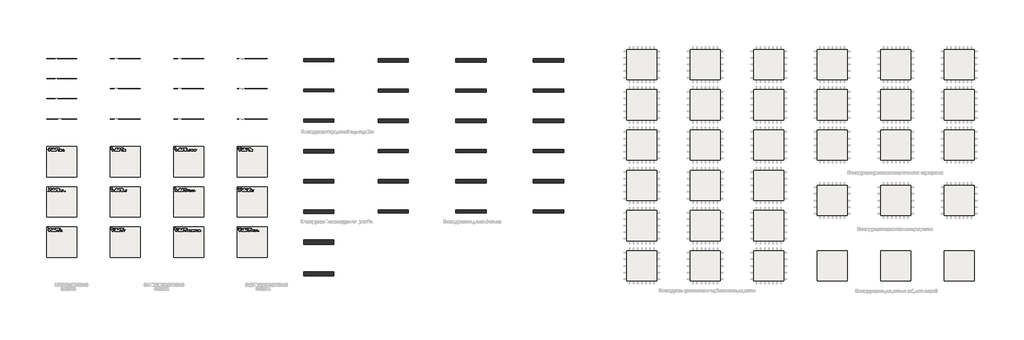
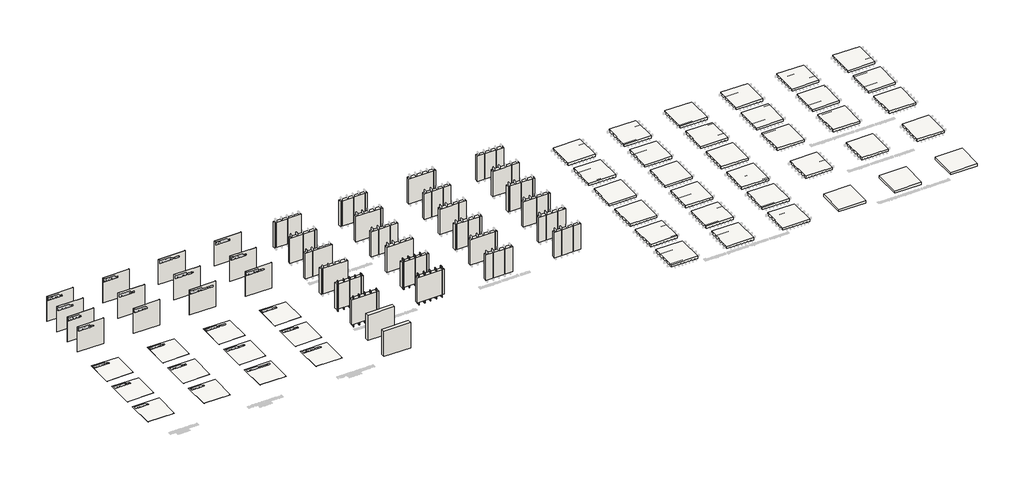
# One storey, part 1 of 42: 45 slabs, 42 beams, 39 walls.
"""IFC4 building model written with IfcOpenShell, lengths in millimetres."""

from ifc_helpers import new_model, si_unit, frame, origin, origin_with_axes, place, context, project, spatial, polyline, outline, extrude, transform, mapped, element, save
from components import beam_54a566a4, beam_29c01288, beam_5dea3e8d

model = new_model("IFC4")

# Units and contexts
model_context = context("Model", 3, world=origin())
ifc_project = project(units=[si_unit("LENGTHUNIT", "METRE", prefix="MILLI")], contexts=[model_context])

# Site, building, storey
site = spatial("IfcSite", under=ifc_project)
building = spatial("IfcBuilding", under=site)
storey = spatial("IfcBuildingStorey", under=building, Name="Этаж 01", Elevation=0.0)

# Beams
placement = place(None, origin())
beam_shape = beam_54a566a4(model_context)
element("IfcBeam", 1, ObjectType="Деревянный брус : 50х50", at=placement, inside=storey, context=model_context, shape_type="MappedRepresentation", body=[
    mapped(beam_shape, transform((4863.2067679, -37173.8929597, 1500.0), x_axis=(0.0, 0.0, -1.0), y_axis=(-1.0, 0.0, 0.0), z_axis=(0.0, 1.0, 0.0))),
])
element("IfcBeam", 2, ObjectType="Деревянный брус : 50х50", at=placement, inside=storey, context=model_context, shape_type="MappedRepresentation", body=[
    mapped(beam_shape, transform((4213.2067679, -37173.8929597, 1500.0), x_axis=(0.0, 0.0, -1.0), y_axis=(-1.0, 0.0, 0.0), z_axis=(0.0, 1.0, 0.0))),
])
element("IfcBeam", 3, ObjectType="Деревянный брус : 50х50", at=placement, inside=storey, context=model_context, shape_type="MappedRepresentation", body=[
    mapped(beam_shape, transform((3563.2067679, -37173.8929597, 1500.0), x_axis=(0.0, 0.0, -1.0), y_axis=(-1.0, 0.0, 0.0), z_axis=(0.0, 1.0, 0.0))),
])
element("IfcBeam", 4, ObjectType="Деревянный брус : 50х50", at=placement, inside=storey, context=model_context, shape_type="MappedRepresentation", body=[
    mapped(beam_shape, transform((2913.2067679, -37173.8929597, 1500.0), x_axis=(0.0, 0.0, -1.0), y_axis=(-1.0, 0.0, 0.0), z_axis=(0.0, 1.0, 0.0))),
])
element("IfcBeam", 5, ObjectType="Деревянный брус : 50х50", at=placement, inside=storey, context=model_context, shape_type="MappedRepresentation", body=[
    mapped(beam_shape, transform((2263.2067679, -37173.8929597, 1500.0), x_axis=(0.0, 0.0, -1.0), y_axis=(-1.0, 0.0, 0.0), z_axis=(0.0, 1.0, 0.0))),
])
element("IfcBeam", 6, ObjectType="Деревянный брус : 50х50", at=placement, inside=storey, context=model_context, shape_type="MappedRepresentation", body=[
    mapped(beam_shape, transform((12263.2067679, -37135.8929597, 1500.0), x_axis=(0.0, 0.0, -1.0), y_axis=(-1.0, 0.0, 0.0), z_axis=(0.0, 1.0, 0.0))),
])
element("IfcBeam", 7, ObjectType="Деревянный брус : 50х50", at=placement, inside=storey, context=model_context, shape_type="MappedRepresentation", body=[
    mapped(beam_shape, transform((11613.2067679, -37135.8929597, 1500.0), x_axis=(0.0, 0.0, -1.0), y_axis=(-1.0, 0.0, 0.0), z_axis=(0.0, 1.0, 0.0))),
])
element("IfcBeam", 8, ObjectType="Деревянный брус : 50х50", at=placement, inside=storey, context=model_context, shape_type="MappedRepresentation", body=[
    mapped(beam_shape, transform((10963.2067679, -37135.8929597, 1500.0), x_axis=(0.0, 0.0, -1.0), y_axis=(-1.0, 0.0, 0.0), z_axis=(0.0, 1.0, 0.0))),
])
element("IfcBeam", 9, ObjectType="Деревянный брус : 50х50", at=placement, inside=storey, context=model_context, shape_type="MappedRepresentation", body=[
    mapped(beam_shape, transform((10313.2067679, -37135.8929597, 1500.0), x_axis=(0.0, 0.0, -1.0), y_axis=(-1.0, 0.0, 0.0), z_axis=(0.0, 1.0, 0.0))),
])
element("IfcBeam", 10, ObjectType="Деревянный брус : 50х50", at=placement, inside=storey, context=model_context, shape_type="MappedRepresentation", body=[
    mapped(beam_shape, transform((9663.2067679, -37135.8929597, 1500.0), x_axis=(0.0, 0.0, -1.0), y_axis=(-1.0, 0.0, 0.0), z_axis=(0.0, 1.0, 0.0))),
])
element("IfcBeam", 11, ObjectType="Деревянный брус : 50х50", at=placement, inside=storey, context=model_context, shape_type="MappedRepresentation", body=[
    mapped(beam_shape, transform((12263.2067679, -36883.8929597, 1500.0), x_axis=(0.0, 0.0, -1.0), y_axis=(1.0, 0.0, 0.0), z_axis=(0.0, -1.0, 0.0))),
])
element("IfcBeam", 12, ObjectType="Деревянный брус : 50х50", at=placement, inside=storey, context=model_context, shape_type="MappedRepresentation", body=[
    mapped(beam_shape, transform((11613.2067679, -36883.8929597, 1500.0), x_axis=(0.0, 0.0, -1.0), y_axis=(1.0, 0.0, 0.0), z_axis=(0.0, -1.0, 0.0))),
])
element("IfcBeam", 13, ObjectType="Деревянный брус : 50х50", at=placement, inside=storey, context=model_context, shape_type="MappedRepresentation", body=[
    mapped(beam_shape, transform((10963.2067679, -36883.8929597, 1500.0), x_axis=(0.0, 0.0, -1.0), y_axis=(1.0, 0.0, 0.0), z_axis=(0.0, -1.0, 0.0))),
])
element("IfcBeam", 14, ObjectType="Деревянный брус : 50х50", at=placement, inside=storey, context=model_context, shape_type="MappedRepresentation", body=[
    mapped(beam_shape, transform((10313.2067679, -36883.8929597, 1500.0), x_axis=(0.0, 0.0, -1.0), y_axis=(1.0, 0.0, 0.0), z_axis=(0.0, -1.0, 0.0))),
])
element("IfcBeam", 15, ObjectType="Деревянный брус : 50х50", at=placement, inside=storey, context=model_context, shape_type="MappedRepresentation", body=[
    mapped(beam_shape, transform((9663.2067679, -36883.8929597, 1500.0), x_axis=(0.0, 0.0, -1.0), y_axis=(1.0, 0.0, 0.0), z_axis=(0.0, -1.0, 0.0))),
])
element("IfcBeam", 16, ObjectType="Деревянный брус : 50х50", at=placement, inside=storey, context=model_context, shape_type="MappedRepresentation", body=[
    mapped(beam_shape, transform((4863.2067679, -34173.8929597, 1500.0), x_axis=(0.0, 0.0, -1.0), y_axis=(-1.0, 0.0, 0.0), z_axis=(0.0, 1.0, 0.0))),
])
element("IfcBeam", 17, ObjectType="Деревянный брус : 50х50", at=placement, inside=storey, context=model_context, shape_type="MappedRepresentation", body=[
    mapped(beam_shape, transform((4213.2067679, -34173.8929597, 1500.0), x_axis=(0.0, 0.0, -1.0), y_axis=(-1.0, 0.0, 0.0), z_axis=(0.0, 1.0, 0.0))),
])
element("IfcBeam", 18, ObjectType="Деревянный брус : 50х50", at=placement, inside=storey, context=model_context, shape_type="MappedRepresentation", body=[
    mapped(beam_shape, transform((3563.2067679, -34173.8929597, 1500.0), x_axis=(0.0, 0.0, -1.0), y_axis=(-1.0, 0.0, 0.0), z_axis=(0.0, 1.0, 0.0))),
])
element("IfcBeam", 19, ObjectType="Деревянный брус : 50х50", at=placement, inside=storey, context=model_context, shape_type="MappedRepresentation", body=[
    mapped(beam_shape, transform((2913.2067679, -34173.8929597, 1500.0), x_axis=(0.0, 0.0, -1.0), y_axis=(-1.0, 0.0, 0.0), z_axis=(0.0, 1.0, 0.0))),
])
element("IfcBeam", 20, ObjectType="Деревянный брус : 50х50", at=placement, inside=storey, context=model_context, shape_type="MappedRepresentation", body=[
    mapped(beam_shape, transform((2263.2067679, -34173.8929597, 1500.0), x_axis=(0.0, 0.0, -1.0), y_axis=(-1.0, 0.0, 0.0), z_axis=(0.0, 1.0, 0.0))),
])
element("IfcBeam", 21, ObjectType="Деревянный брус : 50х50", at=placement, inside=storey, context=model_context, shape_type="MappedRepresentation", body=[
    mapped(beam_shape, transform((10963.2067679, -34135.8929597, 1500.0), x_axis=(0.0, 0.0, -1.0), y_axis=(-1.0, 0.0, 0.0), z_axis=(0.0, 1.0, 0.0))),
])
element("IfcBeam", 22, ObjectType="Деревянный брус : 50х50", at=placement, inside=storey, context=model_context, shape_type="MappedRepresentation", body=[
    mapped(beam_shape, transform((10313.2067679, -34135.8929597, 1500.0), x_axis=(0.0, 0.0, -1.0), y_axis=(-1.0, 0.0, 0.0), z_axis=(0.0, 1.0, 0.0))),
])
element("IfcBeam", 23, ObjectType="Деревянный брус : 50х50", at=placement, inside=storey, context=model_context, shape_type="MappedRepresentation", body=[
    mapped(beam_shape, transform((9663.2067679, -34135.8929597, 1500.0), x_axis=(0.0, 0.0, -1.0), y_axis=(-1.0, 0.0, 0.0), z_axis=(0.0, 1.0, 0.0))),
])
beam_2_shape = beam_29c01288(model_context)
element("IfcBeam", 24, ObjectType="Деревянный брус : 50х100", at=placement, inside=storey, context=model_context, shape_type="MappedRepresentation", body=[
    mapped(beam_2_shape, transform((4863.2067679, -37096.8929597, 1500.0), x_axis=(0.0, 0.0, -1.0), y_axis=(1.0, 0.0, 0.0), z_axis=(0.0, -1.0, 0.0))),
])
element("IfcBeam", 25, ObjectType="Деревянный брус : 50х100", at=placement, inside=storey, context=model_context, shape_type="MappedRepresentation", body=[
    mapped(beam_2_shape, transform((4213.2067679, -37096.8929597, 1500.0), x_axis=(0.0, 0.0, -1.0), y_axis=(1.0, 0.0, 0.0), z_axis=(0.0, -1.0, 0.0))),
])
element("IfcBeam", 26, ObjectType="Деревянный брус : 50х100", at=placement, inside=storey, context=model_context, shape_type="MappedRepresentation", body=[
    mapped(beam_2_shape, transform((3563.2067679, -37096.8929597, 1500.0), x_axis=(0.0, 0.0, -1.0), y_axis=(1.0, 0.0, 0.0), z_axis=(0.0, -1.0, 0.0))),
])
element("IfcBeam", 27, ObjectType="Деревянный брус : 50х100", at=placement, inside=storey, context=model_context, shape_type="MappedRepresentation", body=[
    mapped(beam_2_shape, transform((2913.2067679, -37096.8929597, 1500.0), x_axis=(0.0, 0.0, -1.0), y_axis=(1.0, 0.0, 0.0), z_axis=(0.0, -1.0, 0.0))),
])
element("IfcBeam", 28, ObjectType="Деревянный брус : 50х100", at=placement, inside=storey, context=model_context, shape_type="MappedRepresentation", body=[
    mapped(beam_2_shape, transform((2263.2067679, -37096.8929597, 1500.0), x_axis=(0.0, 0.0, -1.0), y_axis=(1.0, 0.0, 0.0), z_axis=(0.0, -1.0, 0.0))),
])
element("IfcBeam", 29, ObjectType="Деревянный брус : 50х100", at=placement, inside=storey, context=model_context, shape_type="MappedRepresentation", body=[
    mapped(beam_2_shape, transform((4863.2067679, -34096.8929597, 1500.0), x_axis=(0.0, 0.0, -1.0), y_axis=(1.0, 0.0, 0.0), z_axis=(0.0, -1.0, 0.0))),
])
element("IfcBeam", 30, ObjectType="Деревянный брус : 50х100", at=placement, inside=storey, context=model_context, shape_type="MappedRepresentation", body=[
    mapped(beam_2_shape, transform((4213.2067679, -34096.8929597, 1500.0), x_axis=(0.0, 0.0, -1.0), y_axis=(1.0, 0.0, 0.0), z_axis=(0.0, -1.0, 0.0))),
])
element("IfcBeam", 31, ObjectType="Деревянный брус : 50х100", at=placement, inside=storey, context=model_context, shape_type="MappedRepresentation", body=[
    mapped(beam_2_shape, transform((3563.2067679, -34096.8929597, 1500.0), x_axis=(0.0, 0.0, -1.0), y_axis=(1.0, 0.0, 0.0), z_axis=(0.0, -1.0, 0.0))),
])
element("IfcBeam", 32, ObjectType="Деревянный брус : 50х100", at=placement, inside=storey, context=model_context, shape_type="MappedRepresentation", body=[
    mapped(beam_2_shape, transform((2913.2067679, -34096.8929597, 1500.0), x_axis=(0.0, 0.0, -1.0), y_axis=(1.0, 0.0, 0.0), z_axis=(0.0, -1.0, 0.0))),
])
element("IfcBeam", 33, ObjectType="Деревянный брус : 50х100", at=placement, inside=storey, context=model_context, shape_type="MappedRepresentation", body=[
    mapped(beam_2_shape, transform((2263.2067679, -34096.8929597, 1500.0), x_axis=(0.0, 0.0, -1.0), y_axis=(1.0, 0.0, 0.0), z_axis=(0.0, -1.0, 0.0))),
])
beam_3_shape = beam_5dea3e8d(model_context)
element("IfcBeam", 34, ObjectType="Деревянный брус : 50х200", at=placement, inside=storey, context=model_context, shape_type="MappedRepresentation", body=[
    mapped(beam_3_shape, transform((12263.2333353, -37009.8759551, 1500.0), x_axis=(0.0, 0.0, -1.0), y_axis=(1.0, 0.0, 0.0), z_axis=(0.0, -1.0, 0.0))),
])
element("IfcBeam", 35, ObjectType="Деревянный брус : 50х200", at=placement, inside=storey, context=model_context, shape_type="MappedRepresentation", body=[
    mapped(beam_3_shape, transform((11613.2333353, -37009.8759551, 1500.0), x_axis=(0.0, 0.0, -1.0), y_axis=(1.0, 0.0, 0.0), z_axis=(0.0, -1.0, 0.0))),
])
element("IfcBeam", 36, ObjectType="Деревянный брус : 50х200", at=placement, inside=storey, context=model_context, shape_type="MappedRepresentation", body=[
    mapped(beam_3_shape, transform((10963.2333353, -37009.8759551, 1500.0), x_axis=(0.0, 0.0, -1.0), y_axis=(1.0, 0.0, 0.0), z_axis=(0.0, -1.0, 0.0))),
])
element("IfcBeam", 37, ObjectType="Деревянный брус : 50х200", at=placement, inside=storey, context=model_context, shape_type="MappedRepresentation", body=[
    mapped(beam_3_shape, transform((10313.2333353, -37009.8759551, 1500.0), x_axis=(0.0, 0.0, -1.0), y_axis=(1.0, 0.0, 0.0), z_axis=(0.0, -1.0, 0.0))),
])
element("IfcBeam", 38, ObjectType="Деревянный брус : 50х200", at=placement, inside=storey, context=model_context, shape_type="MappedRepresentation", body=[
    mapped(beam_3_shape, transform((9663.2333353, -37009.8759551, 1500.0), x_axis=(0.0, 0.0, -1.0), y_axis=(1.0, 0.0, 0.0), z_axis=(0.0, -1.0, 0.0))),
])
element("IfcBeam", 39, ObjectType="Деревянный брус : 50х200", at=placement, inside=storey, context=model_context, shape_type="MappedRepresentation", body=[
    mapped(beam_3_shape, transform((11613.2333353, -34009.8759551, 1500.0), x_axis=(0.0, 0.0, -1.0), y_axis=(1.0, 0.0, 0.0), z_axis=(0.0, -1.0, 0.0))),
])
element("IfcBeam", 40, ObjectType="Деревянный брус : 50х200", at=placement, inside=storey, context=model_context, shape_type="MappedRepresentation", body=[
    mapped(beam_3_shape, transform((10963.2333353, -34009.8759551, 1500.0), x_axis=(0.0, 0.0, -1.0), y_axis=(1.0, 0.0, 0.0), z_axis=(0.0, -1.0, 0.0))),
])
element("IfcBeam", 41, ObjectType="Деревянный брус : 50х200", at=placement, inside=storey, context=model_context, shape_type="MappedRepresentation", body=[
    mapped(beam_3_shape, transform((10313.2333353, -34009.8759551, 1500.0), x_axis=(0.0, 0.0, -1.0), y_axis=(1.0, 0.0, 0.0), z_axis=(0.0, -1.0, 0.0))),
])
element("IfcBeam", 42, ObjectType="Деревянный брус : 50х200", at=placement, inside=storey, context=model_context, shape_type="MappedRepresentation", body=[
    mapped(beam_3_shape, transform((9663.2333353, -34009.8759551, 1500.0), x_axis=(0.0, 0.0, -1.0), y_axis=(1.0, 0.0, 0.0), z_axis=(0.0, -1.0, 0.0))),
])

# Slabs
element("IfcSlab", 43, ObjectType="OND_Ветрозащита_ONDUTISS BASIC A_ONDULINE", at=placement, inside=storey, context=model_context, shape_type="SweptSolid", body=[
    extrude(outline(polyline([(-20436.7932321, -30575.312691), (-20436.7932321, -33575.312691), (-23436.7932321, -33575.312691), (-23436.7932321, -30575.312691), (-20436.7932321, -30575.312691)])), frame((0.0, 0.0, -1.0), z_axis=(0.0, 0.0, 1.0), x_axis=(1.0, 0.0, 0.0)), (0.0, 0.0, 1.0), 1.0),
])
element("IfcSlab", 44, ObjectType="OND_Ветрозащита_ONDUTISS SMART A_ONDULINE", at=placement, inside=storey, context=model_context, shape_type="SweptSolid", body=[
    extrude(outline(polyline([(-20436.7932321, -34575.312691), (-20436.7932321, -37575.312691), (-23436.7932321, -37575.312691), (-23436.7932321, -34575.312691), (-20436.7932321, -34575.312691)])), frame((0.0, 0.0, -1.0), z_axis=(0.0, 0.0, 1.0), x_axis=(1.0, 0.0, 0.0)), (0.0, 0.0, 1.0), 1.0),
])
element("IfcSlab", 45, ObjectType="OND_Ветрозащита_ONDUTISS PRO A_ONDULINE", at=placement, inside=storey, context=model_context, shape_type="SweptSolid", body=[
    extrude(outline(polyline([(-20436.7932321, -38575.312691), (-20436.7932321, -41575.312691), (-23436.7932321, -41575.312691), (-23436.7932321, -38575.312691), (-20436.7932321, -38575.312691)])), frame((0.0, 0.0, -1.0), z_axis=(0.0, 0.0, 1.0), x_axis=(1.0, 0.0, 0.0)), (0.0, 0.0, 1.0), 1.0),
])
element("IfcSlab", 46, ObjectType="OND_Пароизоляция_ONDUTISS BASIC B_ONDULINE", at=placement, inside=storey, context=model_context, shape_type="SweptSolid", body=[
    extrude(outline(polyline([(-14136.7932321, -30575.312691), (-14136.7932321, -33575.312691), (-17136.7932321, -33575.312691), (-17136.7932321, -30575.312691), (-14136.7932321, -30575.312691)])), frame((0.0, 0.0, -1.0), z_axis=(0.0, 0.0, 1.0), x_axis=(1.0, 0.0, 0.0)), (0.0, 0.0, 1.0), 1.0),
])
element("IfcSlab", 47, ObjectType="OND_Пароизоляция_ONDUTISS SMART B_ONDULINE", at=placement, inside=storey, context=model_context, shape_type="SweptSolid", body=[
    extrude(outline(polyline([(-14136.7932321, -34575.312691), (-14136.7932321, -37575.312691), (-17136.7932321, -37575.312691), (-17136.7932321, -34575.312691), (-14136.7932321, -34575.312691)])), frame((0.0, 0.0, -1.0), z_axis=(0.0, 0.0, 1.0), x_axis=(1.0, 0.0, 0.0)), (0.0, 0.0, 1.0), 1.0),
])
element("IfcSlab", 48, ObjectType="OND_Пароизоляция_ONDUTISS PRO B_ONDULINE", at=placement, inside=storey, context=model_context, shape_type="SweptSolid", body=[
    extrude(outline(polyline([(-14136.7932321, -38575.312691), (-14136.7932321, -41575.312691), (-17136.7932321, -41575.312691), (-17136.7932321, -38575.312691), (-14136.7932321, -38575.312691)])), frame((0.0, 0.0, -1.0), z_axis=(0.0, 0.0, 1.0), x_axis=(1.0, 0.0, 0.0)), (0.0, 0.0, 1.0), 1.0),
])
element("IfcSlab", 49, ObjectType="OND_Пароизоляция_ONDUTISS SMART TERMO_ONDULINE", at=placement, inside=storey, context=model_context, shape_type="SweptSolid", body=[
    extrude(outline(polyline([(-7836.7932321, -30575.312691), (-7836.7932321, -33575.312691), (-10836.7932321, -33575.312691), (-10836.7932321, -30575.312691), (-7836.7932321, -30575.312691)])), frame((0.0, 0.0, -1.0), z_axis=(0.0, 0.0, 1.0), x_axis=(1.0, 0.0, 0.0)), (0.0, 0.0, 1.0), 1.0),
])
element("IfcSlab", 50, ObjectType="OND_Пароизоляция_ONDUTISS PRO TERMO+_ONDULINE", at=placement, inside=storey, context=model_context, shape_type="SweptSolid", body=[
    extrude(outline(polyline([(-7836.7932321, -34575.312691), (-7836.7932321, -37575.312691), (-10836.7932321, -37575.312691), (-10836.7932321, -34575.312691), (-7836.7932321, -34575.312691)])), frame((0.0, 0.0, -1.0), z_axis=(0.0, 0.0, 1.0), x_axis=(1.0, 0.0, 0.0)), (0.0, 0.0, 1.0), 1.0),
])
element("IfcSlab", 51, ObjectType="OND_Пароизоляция_ONDUTISS PRO FRAME HOUSE_ONDULINE", at=placement, inside=storey, context=model_context, shape_type="SweptSolid", body=[
    extrude(outline(polyline([(-7836.7932321, -38575.312691), (-7836.7932321, -41575.312691), (-10836.7932321, -41575.312691), (-10836.7932321, -38575.312691), (-7836.7932321, -38575.312691)])), frame((0.0, 0.0, -1.0), z_axis=(0.0, 0.0, 1.0), x_axis=(1.0, 0.0, 0.0)), (0.0, 0.0, 1.0), 1.0),
])
element("IfcSlab", 52, ObjectType="OND_Гидроизоляция_ONDUTISS BASIC D_ONDULINE", at=placement, inside=storey, context=model_context, shape_type="SweptSolid", body=[
    extrude(outline(polyline([(-1536.7932321, -30575.312691), (-1536.7932321, -33575.312691), (-4536.7932321, -33575.312691), (-4536.7932321, -30575.312691), (-1536.7932321, -30575.312691)])), frame((0.0, 0.0, -1.0), z_axis=(0.0, 0.0, 1.0), x_axis=(1.0, 0.0, 0.0)), (0.0, 0.0, 1.0), 1.0),
])
element("IfcSlab", 53, ObjectType="OND_Гидроизоляция_ONDUTISS SMART D_ONDULINE", at=placement, inside=storey, context=model_context, shape_type="SweptSolid", body=[
    extrude(outline(polyline([(-1536.7932321, -34575.312691), (-1536.7932321, -37575.312691), (-4536.7932321, -37575.312691), (-4536.7932321, -34575.312691), (-1536.7932321, -34575.312691)])), frame((0.0, 0.0, -1.0), z_axis=(0.0, 0.0, 1.0), x_axis=(1.0, 0.0, 0.0)), (0.0, 0.0, 1.0), 1.0),
])
element("IfcSlab", 54, ObjectType="OND_Гидроизоляция_ONDUTISS PRO TERMO+_ONDULINE", at=placement, inside=storey, context=model_context, shape_type="SweptSolid", body=[
    extrude(outline(polyline([(-1536.7932321, -38575.312691), (-1536.7932321, -41575.312691), (-4536.7932321, -41575.312691), (-4536.7932321, -38575.312691), (-1536.7932321, -38575.312691)])), frame((0.0, 0.0, -1.0), z_axis=(0.0, 0.0, 1.0), x_axis=(1.0, 0.0, 0.0)), (0.0, 0.0, 1.0), 1.0),
])
element("IfcSlab", 55, ObjectType="OND_Перекрытие_Вагонка12/Подшивка25/ONDUTISS BASIC B/Мин.вата150/ONDUTISS BASIC А/Обрешетка50/Доска25_ONDULINE", at=placement, inside=storey, context=model_context, shape_type="SweptSolid", body=[
    extrude(outline(polyline([(37113.2067679, -20926.7844763), (37113.2067679, -23926.7844763), (34113.2067679, -23926.7844763), (34113.2067679, -20926.7844763), (37113.2067679, -20926.7844763)])), frame((0.0, 0.0, -264.0), z_axis=(0.0, 0.0, 1.0), x_axis=(1.0, 0.0, 0.0)), (0.0, 0.0, 1.0), 264.0),
])
element("IfcSlab", 56, ObjectType="OND_Перекрытие_Вагонка12/Подшивка25/ONDUTISS SMART B/Мин.вата150/ONDUTISS BASIC А/Обрешетка50/Доска25_ONDULINE", at=placement, inside=storey, context=model_context, shape_type="SweptSolid", body=[
    extrude(outline(polyline([(37113.2067679, -24926.7844763), (37113.2067679, -27926.7844763), (34113.2067679, -27926.7844763), (34113.2067679, -24926.7844763), (37113.2067679, -24926.7844763)])), frame((0.0, 0.0, -264.0), z_axis=(0.0, 0.0, 1.0), x_axis=(1.0, 0.0, 0.0)), (0.0, 0.0, 1.0), 264.0),
])
element("IfcSlab", 57, ObjectType="OND_Перекрытие_Вагонка12/Подшивка25/ONDUTISS PRO B/Мин.вата150/ONDUTISS BASIC А/Обрешетка50/Доска25_ONDULINE", at=placement, inside=storey, context=model_context, shape_type="SweptSolid", body=[
    extrude(outline(polyline([(37113.2067679, -28926.7844763), (37113.2067679, -31926.7844763), (34113.2067679, -31926.7844763), (34113.2067679, -28926.7844763), (37113.2067679, -28926.7844763)])), frame((0.0, 0.0, -264.0), z_axis=(0.0, 0.0, 1.0), x_axis=(1.0, 0.0, 0.0)), (0.0, 0.0, 1.0), 264.0),
])
element("IfcSlab", 58, ObjectType="OND_Перекрытие_Вагонка12/Подшивка25/ONDUTISS SMART TERMO/Мин.вата150/ONDUTISS BASIC А/Обрешетка50/Доска25_ONDULINE", at=placement, inside=storey, context=model_context, shape_type="SweptSolid", body=[
    extrude(outline(polyline([(37113.2067679, -32926.7844763), (37113.2067679, -35926.7844763), (34113.2067679, -35926.7844763), (34113.2067679, -32926.7844763), (37113.2067679, -32926.7844763)])), frame((0.0, 0.0, -264.0), z_axis=(0.0, 0.0, 1.0), x_axis=(1.0, 0.0, 0.0)), (0.0, 0.0, 1.0), 264.0),
])
element("IfcSlab", 59, ObjectType="OND_Перекрытие_Вагонка12/Подшивка25/ONDUTISS PRO TERMO +/Мин.вата150/ONDUTISS BASIC А/Обрешетка50/Доска25_ONDULINE", at=placement, inside=storey, context=model_context, shape_type="SweptSolid", body=[
    extrude(outline(polyline([(37113.2067679, -36926.7844763), (37113.2067679, -39926.7844763), (34113.2067679, -39926.7844763), (34113.2067679, -36926.7844763), (37113.2067679, -36926.7844763)])), frame((0.0, 0.0, -264.0), z_axis=(0.0, 0.0, 1.0), x_axis=(1.0, 0.0, 0.0)), (0.0, 0.0, 1.0), 264.0),
])
element("IfcSlab", 60, ObjectType="OND_Перекрытие_Вагонка12/Подшивка25/ONDUTISS PRO FRAME HOUSE/Мин.вата150/ONDUTISS BASIC А/Обрешетка50/Доска25_ONDULINE", at=placement, inside=storey, context=model_context, shape_type="SweptSolid", body=[
    extrude(outline(polyline([(37113.2067679, -40926.7844763), (37113.2067679, -43926.7844763), (34113.2067679, -43926.7844763), (34113.2067679, -40926.7844763), (37113.2067679, -40926.7844763)])), frame((0.0, 0.0, -264.0), z_axis=(0.0, 0.0, 1.0), x_axis=(1.0, 0.0, 0.0)), (0.0, 0.0, 1.0), 264.0),
])
element("IfcSlab", 61, ObjectType="OND_Перекрытие_Вагонка12/Подшивка25/ONDUTISS BASIC B/Мин.вата150/ONDUTISS SMART A/Обрешетка50/Доска25_ONDULINE", at=placement, inside=storey, context=model_context, shape_type="SweptSolid", body=[
    extrude(outline(polyline([(43413.2067679, -20926.7844763), (43413.2067679, -23926.7844763), (40413.2067679, -23926.7844763), (40413.2067679, -20926.7844763), (43413.2067679, -20926.7844763)])), frame((0.0, 0.0, -264.0), z_axis=(0.0, 0.0, 1.0), x_axis=(1.0, 0.0, 0.0)), (0.0, 0.0, 1.0), 264.0),
])
element("IfcSlab", 62, ObjectType="OND_Перекрытие_Вагонка12/Подшивка25/ONDUTISS SMART B/Мин.вата150/ONDUTISS SMART A/Обрешетка50/Доска25_ONDULINE", at=placement, inside=storey, context=model_context, shape_type="SweptSolid", body=[
    extrude(outline(polyline([(43413.2067679, -24926.7844763), (43413.2067679, -27926.7844763), (40413.2067679, -27926.7844763), (40413.2067679, -24926.7844763), (43413.2067679, -24926.7844763)])), frame((0.0, 0.0, -264.0), z_axis=(0.0, 0.0, 1.0), x_axis=(1.0, 0.0, 0.0)), (0.0, 0.0, 1.0), 264.0),
])
element("IfcSlab", 63, ObjectType="OND_Перекрытие_Вагонка12/Подшивка25/ONDUTISS PRO B/Мин.вата150/ONDUTISS SMART A/Обрешетка50/Доска25_ONDULINE", at=placement, inside=storey, context=model_context, shape_type="SweptSolid", body=[
    extrude(outline(polyline([(43413.2067679, -28926.7844763), (43413.2067679, -31926.7844763), (40413.2067679, -31926.7844763), (40413.2067679, -28926.7844763), (43413.2067679, -28926.7844763)])), frame((0.0, 0.0, -264.0), z_axis=(0.0, 0.0, 1.0), x_axis=(1.0, 0.0, 0.0)), (0.0, 0.0, 1.0), 264.0),
])
element("IfcSlab", 64, ObjectType="OND_Перекрытие_Вагонка12/Подшивка25/ONDUTISS SMART TERMO/Мин.вата150/ONDUTISS SMART A/Обрешетка50/Доска25_ONDULINE", at=placement, inside=storey, context=model_context, shape_type="SweptSolid", body=[
    extrude(outline(polyline([(43413.2067679, -32926.7844763), (43413.2067679, -35926.7844763), (40413.2067679, -35926.7844763), (40413.2067679, -32926.7844763), (43413.2067679, -32926.7844763)])), frame((0.0, 0.0, -264.0), z_axis=(0.0, 0.0, 1.0), x_axis=(1.0, 0.0, 0.0)), (0.0, 0.0, 1.0), 264.0),
])
element("IfcSlab", 65, ObjectType="OND_Перекрытие_Вагонка12/Подшивка25/ONDUTISS PRO TERMO +/Мин.вата150/ONDUTISS SMART A/Обрешетка50/Доска25_ONDULINE", at=placement, inside=storey, context=model_context, shape_type="SweptSolid", body=[
    extrude(outline(polyline([(43413.2067679, -36926.7844763), (43413.2067679, -39926.7844763), (40413.2067679, -39926.7844763), (40413.2067679, -36926.7844763), (43413.2067679, -36926.7844763)])), frame((0.0, 0.0, -264.0), z_axis=(0.0, 0.0, 1.0), x_axis=(1.0, 0.0, 0.0)), (0.0, 0.0, 1.0), 264.0),
])
element("IfcSlab", 66, ObjectType="OND_Перекрытие_Вагонка12/Подшивка25/ONDUTISS PRO FRAME HOUSE/Мин.вата150/ONDUTISS SMART A/Обрешетка50/Доска25_ONDULINE", at=placement, inside=storey, context=model_context, shape_type="SweptSolid", body=[
    extrude(outline(polyline([(43413.2067679, -40926.7844763), (43413.2067679, -43926.7844763), (40413.2067679, -43926.7844763), (40413.2067679, -40926.7844763), (43413.2067679, -40926.7844763)])), frame((0.0, 0.0, -264.0), z_axis=(0.0, 0.0, 1.0), x_axis=(1.0, 0.0, 0.0)), (0.0, 0.0, 1.0), 264.0),
])
element("IfcSlab", 67, ObjectType="OND_Перекрытие_Вагонка12/Подшивка25/ONDUTISS BASIC B/Мин.вата150/ONDUTISS PRO A/Обрешетка50/Доска25_ONDULINE", at=placement, inside=storey, context=model_context, shape_type="SweptSolid", body=[
    extrude(outline(polyline([(49713.2067679, -20926.7844763), (49713.2067679, -23926.7844763), (46713.2067679, -23926.7844763), (46713.2067679, -20926.7844763), (49713.2067679, -20926.7844763)])), frame((0.0, 0.0, -264.0), z_axis=(0.0, 0.0, 1.0), x_axis=(1.0, 0.0, 0.0)), (0.0, 0.0, 1.0), 264.0),
])
element("IfcSlab", 68, ObjectType="OND_Перекрытие_Вагонка12/Подшивка25/ONDUTISS SMART B/Мин.вата150/ONDUTISS PRO A/Обрешетка50/Доска25_ONDULINE", at=placement, inside=storey, context=model_context, shape_type="SweptSolid", body=[
    extrude(outline(polyline([(49713.2067679, -24926.7844763), (49713.2067679, -27926.7844763), (46713.2067679, -27926.7844763), (46713.2067679, -24926.7844763), (49713.2067679, -24926.7844763)])), frame((0.0, 0.0, -264.0), z_axis=(0.0, 0.0, 1.0), x_axis=(1.0, 0.0, 0.0)), (0.0, 0.0, 1.0), 264.0),
])
element("IfcSlab", 69, ObjectType="OND_Перекрытие_Вагонка12/Подшивка25/ONDUTISS PRO B/Мин.вата150/ONDUTISS PRO A/Обрешетка50/Доска25_ONDULINE", at=placement, inside=storey, context=model_context, shape_type="SweptSolid", body=[
    extrude(outline(polyline([(49713.2067679, -28926.7844763), (49713.2067679, -31926.7844763), (46713.2067679, -31926.7844763), (46713.2067679, -28926.7844763), (49713.2067679, -28926.7844763)])), frame((0.0, 0.0, -264.0), z_axis=(0.0, 0.0, 1.0), x_axis=(1.0, 0.0, 0.0)), (0.0, 0.0, 1.0), 264.0),
])
element("IfcSlab", 70, ObjectType="OND_Перекрытие_Вагонка12/Подшивка25/ONDUTISS SMART TERMO/Мин.вата150/ONDUTISS PRO A/Обрешетка50/Доска25_ONDULINE", at=placement, inside=storey, context=model_context, shape_type="SweptSolid", body=[
    extrude(outline(polyline([(49713.2067679, -32926.7844763), (49713.2067679, -35926.7844763), (46713.2067679, -35926.7844763), (46713.2067679, -32926.7844763), (49713.2067679, -32926.7844763)])), frame((0.0, 0.0, -264.0), z_axis=(0.0, 0.0, 1.0), x_axis=(1.0, 0.0, 0.0)), (0.0, 0.0, 1.0), 264.0),
])
element("IfcSlab", 71, ObjectType="OND_Перекрытие_Вагонка12/Подшивка25/ONDUTISS PRO TERMO +/Мин.вата150/ONDUTISS PRO A/Обрешетка50/Доска25_ONDULINE", at=placement, inside=storey, context=model_context, shape_type="SweptSolid", body=[
    extrude(outline(polyline([(49713.2067679, -36926.7844763), (49713.2067679, -39926.7844763), (46713.2067679, -39926.7844763), (46713.2067679, -36926.7844763), (49713.2067679, -36926.7844763)])), frame((0.0, 0.0, -264.0), z_axis=(0.0, 0.0, 1.0), x_axis=(1.0, 0.0, 0.0)), (0.0, 0.0, 1.0), 264.0),
])
element("IfcSlab", 72, ObjectType="OND_Перекрытие_Вагонка12/Подшивка25/ONDUTISS PRO FRAME HOUSE/Мин.вата150/ONDUTISS PRO A/Обрешетка50/Доска25_ONDULINE", at=placement, inside=storey, context=model_context, shape_type="SweptSolid", body=[
    extrude(outline(polyline([(49713.2067679, -40926.7844763), (49713.2067679, -43926.7844763), (46713.2067679, -43926.7844763), (46713.2067679, -40926.7844763), (49713.2067679, -40926.7844763)])), frame((0.0, 0.0, -264.0), z_axis=(0.0, 0.0, 1.0), x_axis=(1.0, 0.0, 0.0)), (0.0, 0.0, 1.0), 264.0),
])
element("IfcSlab", 73, ObjectType="OND_Перекрытие_Подшивка25/ONDUTISS BASIC А/Мин.вата150/ONDUTISS BASIC D/Обрешетка50/Доска25_ONDULINE", at=placement, inside=storey, context=model_context, shape_type="SweptSolid", body=[
    extrude(outline(polyline([(56013.2067679, -20926.7844763), (56013.2067679, -23926.7844763), (53013.2067679, -23926.7844763), (53013.2067679, -20926.7844763), (56013.2067679, -20926.7844763)])), frame((0.0, 0.0, -252.0), z_axis=(0.0, 0.0, 1.0), x_axis=(1.0, 0.0, 0.0)), (0.0, 0.0, 1.0), 252.0),
])
element("IfcSlab", 74, ObjectType="OND_Перекрытие_Подшивка25/ONDUTISS SMART A/Мин.вата150/ONDUTISS BASIC D/Обрешетка50/Доска25_ONDULINE", at=placement, inside=storey, context=model_context, shape_type="SweptSolid", body=[
    extrude(outline(polyline([(56013.2067679, -24926.7844763), (56013.2067679, -27926.7844763), (53013.2067679, -27926.7844763), (53013.2067679, -24926.7844763), (56013.2067679, -24926.7844763)])), frame((0.0, 0.0, -252.0), z_axis=(0.0, 0.0, 1.0), x_axis=(1.0, 0.0, 0.0)), (0.0, 0.0, 1.0), 252.0),
])
element("IfcSlab", 75, ObjectType="OND_Перекрытие_Подшивка25/ONDUTISS PRO A/Мин.вата150/ONDUTISS BASIC D/Обрешетка50/Доска25_ONDULINE", at=placement, inside=storey, context=model_context, shape_type="SweptSolid", body=[
    extrude(outline(polyline([(56013.2067679, -28926.7844763), (56013.2067679, -31926.7844763), (53013.2067679, -31926.7844763), (53013.2067679, -28926.7844763), (56013.2067679, -28926.7844763)])), frame((0.0, 0.0, -252.0), z_axis=(0.0, 0.0, 1.0), x_axis=(1.0, 0.0, 0.0)), (0.0, 0.0, 1.0), 252.0),
])
element("IfcSlab", 76, ObjectType="OND_Перекрытие_Подшивка25/ONDUTISS BASIC А/Мин.вата150/ONDUTISS SMART D/Обрешетка50/Доска25_ONDULINE", at=placement, inside=storey, context=model_context, shape_type="SweptSolid", body=[
    extrude(outline(polyline([(62313.2067679, -20926.7844763), (62313.2067679, -23926.7844763), (59313.2067679, -23926.7844763), (59313.2067679, -20926.7844763), (62313.2067679, -20926.7844763)])), frame((0.0, 0.0, -252.0), z_axis=(0.0, 0.0, 1.0), x_axis=(1.0, 0.0, 0.0)), (0.0, 0.0, 1.0), 252.0),
])
element("IfcSlab", 77, ObjectType="OND_Перекрытие_Подшивка25/ONDUTISS PRO A/Мин.вата150/ONDUTISS SMART D/Обрешетка50/Доска25_ONDULINE", at=placement, inside=storey, context=model_context, shape_type="SweptSolid", body=[
    extrude(outline(polyline([(62313.2067679, -28926.7844763), (62313.2067679, -31926.7844763), (59313.2067679, -31926.7844763), (59313.2067679, -28926.7844763), (62313.2067679, -28926.7844763)])), frame((0.0, 0.0, -252.0), z_axis=(0.0, 0.0, 1.0), x_axis=(1.0, 0.0, 0.0)), (0.0, 0.0, 1.0), 252.0),
])
element("IfcSlab", 78, ObjectType="OND_Перекрытие_Подшивка25/ONDUTISS BASIC А/Мин.вата150/ONDUTISS PRO TERMO+/Обрешетка50/Доска25_ONDULINE", at=placement, inside=storey, context=model_context, shape_type="SweptSolid", body=[
    extrude(outline(polyline([(68613.2067679, -20926.7844763), (68613.2067679, -23926.7844763), (65613.2067679, -23926.7844763), (65613.2067679, -20926.7844763), (68613.2067679, -20926.7844763)])), frame((0.0, 0.0, -252.0), z_axis=(0.0, 0.0, 1.0), x_axis=(1.0, 0.0, 0.0)), (0.0, 0.0, 1.0), 252.0),
])
element("IfcSlab", 79, ObjectType="OND_Перекрытие_Подшивка25/ONDUTISS SMART A/Мин.вата150/ONDUTISS PRO TERMO+/Обрешетка50/Доска25_ONDULINE", at=placement, inside=storey, context=model_context, shape_type="SweptSolid", body=[
    extrude(outline(polyline([(68613.2067679, -24926.7844763), (68613.2067679, -27926.7844763), (65613.2067679, -27926.7844763), (65613.2067679, -24926.7844763), (68613.2067679, -24926.7844763)])), frame((0.0, 0.0, -252.0), z_axis=(0.0, 0.0, 1.0), x_axis=(1.0, 0.0, 0.0)), (0.0, 0.0, 1.0), 252.0),
])
element("IfcSlab", 80, ObjectType="OND_Перекрытие_Подшивка25/ONDUTISS PRO A/Мин.вата150/ONDUTISS PRO TERMO+/Обрешетка50/Доска25_ONDULINE", at=placement, inside=storey, context=model_context, shape_type="SweptSolid", body=[
    extrude(outline(polyline([(68613.2067679, -28926.7844763), (68613.2067679, -31926.7844763), (65613.2067679, -31926.7844763), (65613.2067679, -28926.7844763), (68613.2067679, -28926.7844763)])), frame((0.0, 0.0, -252.0), z_axis=(0.0, 0.0, 1.0), x_axis=(1.0, 0.0, 0.0)), (0.0, 0.0, 1.0), 252.0),
])
element("IfcSlab", 81, ObjectType="OND_Перекрытие_Подшивка25/ONDUTISS SMART A/Мин.вата150/ONDUTISS SMART D/Обрешетка50/Доска25_ONDULINE", at=placement, inside=storey, context=model_context, shape_type="SweptSolid", body=[
    extrude(outline(polyline([(62313.2067679, -24926.7844763), (62313.2067679, -27926.7844763), (59313.2067679, -27926.7844763), (59313.2067679, -24926.7844763), (62313.2067679, -24926.7844763)])), frame((0.0, 0.0, -252.0), z_axis=(0.0, 0.0, 1.0), x_axis=(1.0, 0.0, 0.0)), (0.0, 0.0, 1.0), 252.0),
])
element("IfcSlab", 82, ObjectType="OND_Перекрытие_Вагонка12мм/Подшивка25/ONDUTISS BASIC А/Мин.вата150/ONDUTISS BASIC А/Обрешетка50/Доска25_ONDULINE", at=placement, inside=storey, context=model_context, shape_type="SweptSolid", body=[
    extrude(outline(polyline([(56013.2067679, -34426.7844763), (56013.2067679, -37426.7844763), (53013.2067679, -37426.7844763), (53013.2067679, -34426.7844763), (56013.2067679, -34426.7844763)])), frame((0.0, 0.0, -264.0), z_axis=(0.0, 0.0, 1.0), x_axis=(1.0, 0.0, 0.0)), (0.0, 0.0, 1.0), 264.0),
])
element("IfcSlab", 83, ObjectType="OND_Перекрытие_Вагонка12мм/Подшивка25/ONDUTISS SMART A/Мин.вата150/ONDUTISS SMART A/Обрешетка50/Доска25_ONDULINE", at=placement, inside=storey, context=model_context, shape_type="SweptSolid", body=[
    extrude(outline(polyline([(62313.2067679, -34426.7844763), (62313.2067679, -37426.7844763), (59313.2067679, -37426.7844763), (59313.2067679, -34426.7844763), (62313.2067679, -34426.7844763)])), frame((0.0, 0.0, -264.0), z_axis=(0.0, 0.0, 1.0), x_axis=(1.0, 0.0, 0.0)), (0.0, 0.0, 1.0), 264.0),
])
element("IfcSlab", 84, ObjectType="OND_Перекрытие_Вагонка12мм/Подшивка25/ONDUTISS PRO A/Мин.вата150/ONDUTISS PRO A/Обрешетка50/Доска25_ONDULINE", at=placement, inside=storey, context=model_context, shape_type="SweptSolid", body=[
    extrude(outline(polyline([(68613.2067679, -34426.7844763), (68613.2067679, -37426.7844763), (65613.2067679, -37426.7844763), (65613.2067679, -34426.7844763), (68613.2067679, -34426.7844763)])), frame((0.0, 0.0, -264.0), z_axis=(0.0, 0.0, 1.0), x_axis=(1.0, 0.0, 0.0)), (0.0, 0.0, 1.0), 264.0),
])
element("IfcSlab", 85, ObjectType="OND_Перекрытие_Ж/бПлита220/ONDUTISS BASIC D/ЦПС40/Клей8/КерамическаяПлитка12_ONDULINE", at=placement, inside=storey, context=model_context, shape_type="SweptSolid", body=[
    extrude(outline(polyline([(56013.2067679, -40926.7844763), (56013.2067679, -43926.7844763), (53013.2067679, -43926.7844763), (53013.2067679, -40926.7844763), (56013.2067679, -40926.7844763)])), frame((0.0, 0.0, -281.0), z_axis=(0.0, 0.0, 1.0), x_axis=(1.0, 0.0, 0.0)), (0.0, 0.0, 1.0), 281.0),
])
element("IfcSlab", 86, ObjectType="OND_Перекрытие_Ж/бПлита220/ONDUTISS SMART D/ЦПС40/Клей8/КерамическаяПлитка12_ONDULINE", at=placement, inside=storey, context=model_context, shape_type="SweptSolid", body=[
    extrude(outline(polyline([(62313.2067679, -40926.7844763), (62313.2067679, -43926.7844763), (59313.2067679, -43926.7844763), (59313.2067679, -40926.7844763), (62313.2067679, -40926.7844763)])), frame((0.0, 0.0, -281.0), z_axis=(0.0, 0.0, 1.0), x_axis=(1.0, 0.0, 0.0)), (0.0, 0.0, 1.0), 281.0),
])
element("IfcSlab", 87, ObjectType="OND_Перекрытие_Ж/бПлита220/ONDUTISS PRO TERMO+/ЦПС40/Клей8/КерамическаяПлитка12_ONDULINE", at=placement, inside=storey, context=model_context, shape_type="SweptSolid", body=[
    extrude(outline(polyline([(68613.2067679, -40926.7844763), (68613.2067679, -43926.7844763), (65613.2067679, -43926.7844763), (65613.2067679, -40926.7844763), (68613.2067679, -40926.7844763)])), frame((0.0, 0.0, -281.0), z_axis=(0.0, 0.0, 1.0), x_axis=(1.0, 0.0, 0.0)), (0.0, 0.0, 1.0), 281.0),
])

# Walls
element("IfcWall", 88, ObjectType="OND_Наружная_Бетон200/Минвата150/ONDUTISS Stop Fire/Вент.зазор50/Керамогранит15_ONDULINE", at=placement, inside=storey, context=model_context, shape_type="SweptSolid", body=[
    extrude(outline(polyline([(5063.2067679, -40274.8929597), (2063.2067679, -40274.8929597), (2063.2067679, -39858.8929597), (5063.2067679, -39858.8929597), (5063.2067679, -40274.8929597)])), origin_with_axes(), (0.0, 0.0, 1.0), 3000.0),
])
element("IfcWall", 89, ObjectType="OND_Ветрозащита_ONDUTISS Stop Fire_ONDULINE", at=placement, inside=storey, context=model_context, shape_type="SweptSolid", body=[
    extrude(outline(polyline([(-20436.7932321, -27829.3929597), (-23436.7932321, -27829.3929597), (-23436.7932321, -27828.3929597), (-20436.7932321, -27828.3929597), (-20436.7932321, -27829.3929597)])), origin_with_axes(), (0.0, 0.0, 1.0), 3000.0),
])
element("IfcWall", 90, ObjectType="OND_Наружная_Газобетон200/Минвата150/ONDUTISS Stop Fire/Вент.зазор50/Керамогранит15_ONDULINE", at=placement, inside=storey, context=model_context, shape_type="SweptSolid", body=[
    extrude(outline(polyline([(5063.2067679, -43438.8929597), (2063.2067679, -43438.8929597), (2063.2067679, -43022.8929597), (5063.2067679, -43022.8929597), (5063.2067679, -43438.8929597)])), origin_with_axes(), (0.0, 0.0, 1.0), 3000.0),
])
element("IfcWall", 91, ObjectType="OND_Ветрозащита_ONDUTISS BASIC A_ONDULINE", at=placement, inside=storey, context=model_context, shape_type="SweptSolid", body=[
    extrude(outline(polyline([(-20436.7932321, -21828.3929597), (-23436.7932321, -21828.3929597), (-23436.7932321, -21827.3929597), (-20436.7932321, -21827.3929597), (-20436.7932321, -21828.3929597)])), origin_with_axes(), (0.0, 0.0, 1.0), 3000.0),
])
element("IfcWall", 92, ObjectType="OND_Ветрозащита_ONDUTISS SMART A_ONDULINE", at=placement, inside=storey, context=model_context, shape_type="SweptSolid", body=[
    extrude(outline(polyline([(-20436.7932321, -23828.3929597), (-23436.7932321, -23828.3929597), (-23436.7932321, -23827.3929597), (-20436.7932321, -23827.3929597), (-20436.7932321, -23828.3929597)])), origin_with_axes(), (0.0, 0.0, 1.0), 3000.0),
])
element("IfcWall", 93, ObjectType="OND_Ветрозащита_ONDUTISS PRO A_ONDULINE", at=placement, inside=storey, context=model_context, shape_type="SweptSolid", body=[
    extrude(outline(polyline([(-20436.7932321, -25827.3929597), (-23436.7932321, -25827.3929597), (-23436.7932321, -25826.3929597), (-20436.7932321, -25826.3929597), (-20436.7932321, -25827.3929597)])), origin_with_axes(), (0.0, 0.0, 1.0), 3000.0),
])
element("IfcWall", 94, ObjectType="OND_Пароизоляция_ONDUTISS BASIC B_ONDULINE", at=placement, inside=storey, context=model_context, shape_type="SweptSolid", body=[
    extrude(outline(polyline([(-14136.7932321, -21828.3929597), (-17136.7932321, -21828.3929597), (-17136.7932321, -21827.3929597), (-14136.7932321, -21827.3929597), (-14136.7932321, -21828.3929597)])), origin_with_axes(), (0.0, 0.0, 1.0), 3000.0),
])
element("IfcWall", 95, ObjectType="OND_Пароизоляция_ONDUTISS SMART B_ONDULINE", at=placement, inside=storey, context=model_context, shape_type="SweptSolid", body=[
    extrude(outline(polyline([(-14136.7932321, -24828.3929597), (-17136.7932321, -24828.3929597), (-17136.7932321, -24827.3929597), (-14136.7932321, -24827.3929597), (-14136.7932321, -24828.3929597)])), origin_with_axes(), (0.0, 0.0, 1.0), 3000.0),
])
element("IfcWall", 96, ObjectType="OND_Пароизоляция_ONDUTISS PRO B_ONDULINE", at=placement, inside=storey, context=model_context, shape_type="SweptSolid", body=[
    extrude(outline(polyline([(-14136.7932321, -27828.3929597), (-17136.7932321, -27828.3929597), (-17136.7932321, -27827.3929597), (-14136.7932321, -27827.3929597), (-14136.7932321, -27828.3929597)])), origin_with_axes(), (0.0, 0.0, 1.0), 3000.0),
])
element("IfcWall", 97, ObjectType="OND_Пароизоляция_ONDUTISS SMART TERMO_ONDULINE", at=placement, inside=storey, context=model_context, shape_type="SweptSolid", body=[
    extrude(outline(polyline([(-7836.7932321, -21828.3929597), (-10836.7932321, -21828.3929597), (-10836.7932321, -21827.3929597), (-7836.7932321, -21827.3929597), (-7836.7932321, -21828.3929597)])), origin_with_axes(), (0.0, 0.0, 1.0), 3000.0),
])
element("IfcWall", 98, ObjectType="OND_Пароизоляция_ONDUTISS PRO TERMO+_ONDULINE", at=placement, inside=storey, context=model_context, shape_type="SweptSolid", body=[
    extrude(outline(polyline([(-7836.7932321, -24828.3929597), (-10836.7932321, -24828.3929597), (-10836.7932321, -24827.3929597), (-7836.7932321, -24827.3929597), (-7836.7932321, -24828.3929597)])), origin_with_axes(), (0.0, 0.0, 1.0), 3000.0),
])
element("IfcWall", 99, ObjectType="OND_Пароизоляция_ONDUTISS PRO FRAME HOUSE_ONDULINE", at=placement, inside=storey, context=model_context, shape_type="SweptSolid", body=[
    extrude(outline(polyline([(-7836.7932321, -27828.3929597), (-10836.7932321, -27828.3929597), (-10836.7932321, -27827.3929597), (-7836.7932321, -27827.3929597), (-7836.7932321, -27828.3929597)])), origin_with_axes(), (0.0, 0.0, 1.0), 3000.0),
])
element("IfcWall", 100, ObjectType="OND_Гидроизоляция_ONDUTISS BASIC D_ONDULINE", at=placement, inside=storey, context=model_context, shape_type="SweptSolid", body=[
    extrude(outline(polyline([(-1536.7932321, -21828.3929597), (-4536.7932321, -21828.3929597), (-4536.7932321, -21827.3929597), (-1536.7932321, -21827.3929597), (-1536.7932321, -21828.3929597)])), origin_with_axes(), (0.0, 0.0, 1.0), 3000.0),
])
element("IfcWall", 101, ObjectType="OND_Гидроизоляция_ONDUTISS SMART D_ONDULINE", at=placement, inside=storey, context=model_context, shape_type="SweptSolid", body=[
    extrude(outline(polyline([(-1536.7932321, -24828.3929597), (-4536.7932321, -24828.3929597), (-4536.7932321, -24827.3929597), (-1536.7932321, -24827.3929597), (-1536.7932321, -24828.3929597)])), origin_with_axes(), (0.0, 0.0, 1.0), 3000.0),
])
element("IfcWall", 102, ObjectType="OND_Гидроизоляция_ONDUTISS PRO TERMO+_ONDULINE", at=placement, inside=storey, context=model_context, shape_type="SweptSolid", body=[
    extrude(outline(polyline([(-1536.7932321, -27829.3929597), (-4536.7932321, -27829.3929597), (-4536.7932321, -27828.3929597), (-1536.7932321, -27828.3929597), (-1536.7932321, -27829.3929597)])), origin_with_axes(), (0.0, 0.0, 1.0), 3000.0),
])
element("IfcWall", 103, ObjectType="OND_Наружная_Газобетон200/Минвата100/ONDUTISS BASIC A/Направляющие50/Отделка15_ONDULINE", at=placement, inside=storey, context=model_context, shape_type="SweptSolid", body=[
    extrude(outline(polyline([(5063.2067679, -31212.8929597), (2063.2067679, -31212.8929597), (2063.2067679, -30846.8929597), (5063.2067679, -30846.8929597), (5063.2067679, -31212.8929597)])), origin_with_axes(), (0.0, 0.0, 1.0), 3000.0),
])
element("IfcWall", 104, ObjectType="OND_Наружная_Газобетон200/Минвата100/ONDUTISS SMART A/Направляющие50/Отделка15_ONDULINE", at=placement, inside=storey, context=model_context, shape_type="SweptSolid", body=[
    extrude(outline(polyline([(5063.2067679, -34212.8929597), (2063.2067679, -34212.8929597), (2063.2067679, -33846.8929597), (5063.2067679, -33846.8929597), (5063.2067679, -34212.8929597)])), origin_with_axes(), (0.0, 0.0, 1.0), 3000.0),
])
element("IfcWall", 105, ObjectType="OND_Наружная_Газобетон200/Минвата100/ONDUTISS PRO A/Направляющие50/Отделка15_ONDULINE", at=placement, inside=storey, context=model_context, shape_type="SweptSolid", body=[
    extrude(outline(polyline([(5063.2067679, -37212.8929597), (2063.2067679, -37212.8929597), (2063.2067679, -36846.8929597), (5063.2067679, -36846.8929597), (5063.2067679, -37212.8929597)])), origin_with_axes(), (0.0, 0.0, 1.0), 3000.0),
])
element("IfcWall", 106, ObjectType="OND_Наружная_Вагонка12/Направляющие50/ONDUTISS BASIC B/Минвата200/ONDUTISS BASIC A/Направляющие50/Отделка15_ONDULINE", at=placement, inside=storey, context=model_context, shape_type="SweptSolid", body=[
    extrude(outline(polyline([(12463.2067679, -22175.8929597), (9463.2067679, -22175.8929597), (9463.2067679, -21846.8929597), (12463.2067679, -21846.8929597), (12463.2067679, -22175.8929597)])), origin_with_axes(), (0.0, 0.0, 1.0), 3000.0),
])
element("IfcWall", 107, ObjectType="OND_Наружная_Вагонка12/Направляющие50/ONDUTISS SMART B/Минвата200/ONDUTISS BASIC A/Направляющие50/Отделка15_ONDULINE", at=placement, inside=storey, context=model_context, shape_type="SweptSolid", body=[
    extrude(outline(polyline([(12463.2067679, -25175.8929597), (9463.2067679, -25175.8929597), (9463.2067679, -24846.8929597), (12463.2067679, -24846.8929597), (12463.2067679, -25175.8929597)])), origin_with_axes(), (0.0, 0.0, 1.0), 3000.0),
])
element("IfcWall", 108, ObjectType="OND_Наружная_Вагонка12/Направляющие50/ONDUTISS PRO B/Минвата200/ONDUTISS BASIC A/Направляющие50/Отделка15_ONDULINE", at=placement, inside=storey, context=model_context, shape_type="SweptSolid", body=[
    extrude(outline(polyline([(12463.2067679, -28175.8929597), (9463.2067679, -28175.8929597), (9463.2067679, -27846.8929597), (12463.2067679, -27846.8929597), (12463.2067679, -28175.8929597)])), origin_with_axes(), (0.0, 0.0, 1.0), 3000.0),
])
element("IfcWall", 109, ObjectType="OND_Наружная_Вагонка12/Направляющие50/ONDUTISS SMART TERMO/Минвата200/ONDUTISS BASIC A/Направляющие50/Отделка15_ONDULINE", at=placement, inside=storey, context=model_context, shape_type="SweptSolid", body=[
    extrude(outline(polyline([(12463.2067679, -31175.8929597), (9463.2067679, -31175.8929597), (9463.2067679, -30846.8929597), (12463.2067679, -30846.8929597), (12463.2067679, -31175.8929597)])), origin_with_axes(), (0.0, 0.0, 1.0), 3000.0),
])
element("IfcWall", 110, ObjectType="OND_Наружная_Вагонка12/Направляющие50/ONDUTISS PRO TERMO + /Минвата200/ONDUTISS BASIC A/Направляющие50/Отделка15_ONDULINE", at=placement, inside=storey, context=model_context, shape_type="SweptSolid", body=[
    extrude(outline(polyline([(12463.2067679, -34175.8929597), (9463.2067679, -34175.8929597), (9463.2067679, -33846.8929597), (12463.2067679, -33846.8929597), (12463.2067679, -34175.8929597)])), origin_with_axes(), (0.0, 0.0, 1.0), 3000.0),
])
element("IfcWall", 111, ObjectType="OND_Наружная_Вагонка12/Направляющие50/ONDUTISS BASIC B/Минвата200/ONDUTISS SMART A/Направляющие50/Отделка15_ONDULINE", at=placement, inside=storey, context=model_context, shape_type="SweptSolid", body=[
    extrude(outline(polyline([(20163.2067679, -22175.8929597), (17163.2067679, -22175.8929597), (17163.2067679, -21846.8929597), (20163.2067679, -21846.8929597), (20163.2067679, -22175.8929597)])), origin_with_axes(), (0.0, 0.0, 1.0), 3000.0),
])
element("IfcWall", 112, ObjectType="OND_Наружная_Вагонка12/Направляющие50/ONDUTISS SMART B/Минвата200/ONDUTISS SMART A/Направляющие50/Отделка15_ONDULINE", at=placement, inside=storey, context=model_context, shape_type="SweptSolid", body=[
    extrude(outline(polyline([(20163.2067679, -25175.8929597), (17163.2067679, -25175.8929597), (17163.2067679, -24846.8929597), (20163.2067679, -24846.8929597), (20163.2067679, -25175.8929597)])), origin_with_axes(), (0.0, 0.0, 1.0), 3000.0),
])
element("IfcWall", 113, ObjectType="OND_Наружная_Вагонка12/Направляющие50/ONDUTISS PRO B/Минвата200/ONDUTISS SMART A/Направляющие50/Отделка15_ONDULINE", at=placement, inside=storey, context=model_context, shape_type="SweptSolid", body=[
    extrude(outline(polyline([(20163.2067679, -28175.8929597), (17163.2067679, -28175.8929597), (17163.2067679, -27846.8929597), (20163.2067679, -27846.8929597), (20163.2067679, -28175.8929597)])), origin_with_axes(), (0.0, 0.0, 1.0), 3000.0),
])
element("IfcWall", 114, ObjectType="OND_Наружная_Вагонка12/Направляющие50/ONDUTISS SMART TERMO/Минвата200/ONDUTISS SMART A/Направляющие50/Отделка15_ONDULINE", at=placement, inside=storey, context=model_context, shape_type="SweptSolid", body=[
    extrude(outline(polyline([(20163.2067679, -31175.8929597), (17163.2067679, -31175.8929597), (17163.2067679, -30846.8929597), (20163.2067679, -30846.8929597), (20163.2067679, -31175.8929597)])), origin_with_axes(), (0.0, 0.0, 1.0), 3000.0),
])
element("IfcWall", 115, ObjectType="OND_Наружная_Вагонка12/Направляющие50/ONDUTISS PRO TERMO + /Минвата200/ONDUTISS SMART A/Направляющие50/Отделка15_ONDULINE", at=placement, inside=storey, context=model_context, shape_type="SweptSolid", body=[
    extrude(outline(polyline([(20163.2067679, -34175.8929597), (17163.2067679, -34175.8929597), (17163.2067679, -33846.8929597), (20163.2067679, -33846.8929597), (20163.2067679, -34175.8929597)])), origin_with_axes(), (0.0, 0.0, 1.0), 3000.0),
])
element("IfcWall", 116, ObjectType="OND_Наружная_Вагонка12/Направляющие50/ONDUTISS PRO FRAME HOUSE /Минвата200/ONDUTISS BASIC A/Направляющие50/Отделка15_ONDULINE", at=placement, inside=storey, context=model_context, shape_type="SweptSolid", body=[
    extrude(outline(polyline([(12463.2067679, -37175.8929597), (9463.2067679, -37175.8929597), (9463.2067679, -36846.8929597), (12463.2067679, -36846.8929597), (12463.2067679, -37175.8929597)])), origin_with_axes(), (0.0, 0.0, 1.0), 3000.0),
])
element("IfcWall", 117, ObjectType="OND_Наружная_Вагонка12/Направляющие50/ONDUTISS PRO FRAME HOUSE /Минвата200/ONDUTISS SMART A/Направляющие50/Отделка15_ONDULINE", at=placement, inside=storey, context=model_context, shape_type="SweptSolid", body=[
    extrude(outline(polyline([(20163.2067679, -37175.8929597), (17163.2067679, -37175.8929597), (17163.2067679, -36846.8929597), (20163.2067679, -36846.8929597), (20163.2067679, -37175.8929597)])), origin_with_axes(), (0.0, 0.0, 1.0), 3000.0),
])
element("IfcWall", 118, ObjectType="OND_Наружная_Вагонка12/Направляющие50/ONDUTISS BASIC B/Минвата200/ONDUTISS PRO A/Направляющие50/Отделка15_ONDULINE", at=placement, inside=storey, context=model_context, shape_type="SweptSolid", body=[
    extrude(outline(polyline([(27863.2067679, -22175.8929597), (24863.2067679, -22175.8929597), (24863.2067679, -21846.8929597), (27863.2067679, -21846.8929597), (27863.2067679, -22175.8929597)])), origin_with_axes(), (0.0, 0.0, 1.0), 3000.0),
])
element("IfcWall", 119, ObjectType="OND_Наружная_Вагонка12/Направляющие50/ONDUTISS SMART B/Минвата200/ONDUTISS PRO A/Направляющие50/Отделка15_ONDULINE", at=placement, inside=storey, context=model_context, shape_type="SweptSolid", body=[
    extrude(outline(polyline([(27863.2067679, -25175.8929597), (24863.2067679, -25175.8929597), (24863.2067679, -24846.8929597), (27863.2067679, -24846.8929597), (27863.2067679, -25175.8929597)])), origin_with_axes(), (0.0, 0.0, 1.0), 3000.0),
])
element("IfcWall", 120, ObjectType="OND_Наружная_Вагонка12/Направляющие50/ONDUTISS PRO B/Минвата200/ONDUTISS PRO A/Направляющие50/Отделка15_ONDULINE", at=placement, inside=storey, context=model_context, shape_type="SweptSolid", body=[
    extrude(outline(polyline([(27863.2067679, -28175.8929597), (24863.2067679, -28175.8929597), (24863.2067679, -27846.8929597), (27863.2067679, -27846.8929597), (27863.2067679, -28175.8929597)])), origin_with_axes(), (0.0, 0.0, 1.0), 3000.0),
])
element("IfcWall", 121, ObjectType="OND_Наружная_Вагонка12/Направляющие50/ONDUTISS SMART TERMO/Минвата200/ONDUTISS PRO A/Направляющие50/Отделка15_ONDULINE", at=placement, inside=storey, context=model_context, shape_type="SweptSolid", body=[
    extrude(outline(polyline([(27863.2067679, -31175.8929597), (24863.2067679, -31175.8929597), (24863.2067679, -30846.8929597), (27863.2067679, -30846.8929597), (27863.2067679, -31175.8929597)])), origin_with_axes(), (0.0, 0.0, 1.0), 3000.0),
])
element("IfcWall", 122, ObjectType="OND_Наружная_Вагонка12/Направляющие50/ONDUTISS PRO TERMO + /Минвата200/ONDUTISS PRO A/Направляющие50/Отделка15_ONDULINE", at=placement, inside=storey, context=model_context, shape_type="SweptSolid", body=[
    extrude(outline(polyline([(27863.2067679, -34175.8929597), (24863.2067679, -34175.8929597), (24863.2067679, -33846.8929597), (27863.2067679, -33846.8929597), (27863.2067679, -34175.8929597)])), origin_with_axes(), (0.0, 0.0, 1.0), 3000.0),
])
element("IfcWall", 123, ObjectType="OND_Наружная_Вагонка12/Направляющие50/ONDUTISS PRO FRAME HOUSE /Минвата200/ONDUTISS PRO A/Направляющие50/Отделка15_ONDULINE", at=placement, inside=storey, context=model_context, shape_type="SweptSolid", body=[
    extrude(outline(polyline([(27863.2067679, -37175.8929597), (24863.2067679, -37175.8929597), (24863.2067679, -36846.8929597), (27863.2067679, -36846.8929597), (27863.2067679, -37175.8929597)])), origin_with_axes(), (0.0, 0.0, 1.0), 3000.0),
])
element("IfcWall", 124, ObjectType="OND_Внутренняя_Вагонка12/Направляющие50/ONDUTISS BASIC А/Минвата150/ONDUTISS BASIC A/Направляющие50/Вагонка12_ONDULINE", at=placement, inside=storey, context=model_context, shape_type="SweptSolid", body=[
    extrude(outline(polyline([(5063.2067679, -22134.8929597), (2063.2067679, -22134.8929597), (2063.2067679, -21858.8929597), (5063.2067679, -21858.8929597), (5063.2067679, -22134.8929597)])), origin_with_axes(), (0.0, 0.0, 1.0), 3000.0),
])
element("IfcWall", 125, ObjectType="OND_Внутренняя_Вагонка12/Направляющие50/ONDUTISS SMART А/Минвата150/ONDUTISS SMART A/Направляющие50/Вагонка12_ONDULINE", at=placement, inside=storey, context=model_context, shape_type="SweptSolid", body=[
    extrude(outline(polyline([(5063.2067679, -25134.8929597), (2063.2067679, -25134.8929597), (2063.2067679, -24858.8929597), (5063.2067679, -24858.8929597), (5063.2067679, -25134.8929597)])), origin_with_axes(), (0.0, 0.0, 1.0), 3000.0),
])
element("IfcWall", 126, ObjectType="OND_Внутренняя_Вагонка12/Направляющие50/ONDUTISS PRO А/Минвата150/ONDUTISS PRO A/Направляющие50/Вагонка12_ONDULINE", at=placement, inside=storey, context=model_context, shape_type="SweptSolid", body=[
    extrude(outline(polyline([(5063.2067679, -28134.8929597), (2063.2067679, -28134.8929597), (2063.2067679, -27858.8929597), (5063.2067679, -27858.8929597), (5063.2067679, -28134.8929597)])), origin_with_axes(), (0.0, 0.0, 1.0), 3000.0),
])

save(model, "model.ifc")
